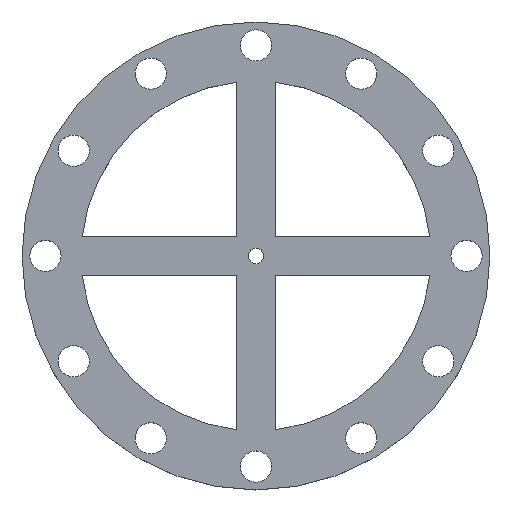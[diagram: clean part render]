
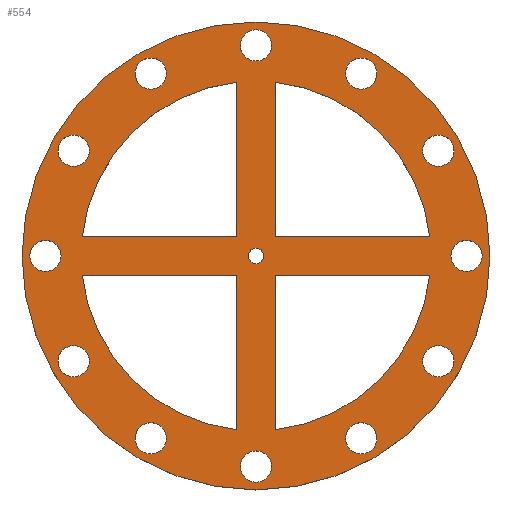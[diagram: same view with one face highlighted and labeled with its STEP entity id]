
A CAD part, top view. The second image highlights one B-rep face of the part: STEP entity #554.
In plain terms, the highlighted planar face has unit normal (0, 0, 1).
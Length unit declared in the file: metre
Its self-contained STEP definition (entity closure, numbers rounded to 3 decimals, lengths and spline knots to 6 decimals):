
#13=CIRCLE('',#572,0.022414);
#15=CIRCLE('',#575,0.022414);
#17=CIRCLE('',#579,0.022414);
#19=CIRCLE('',#583,0.022414);
#20=CIRCLE('',#586,0.03);
#22=CIRCLE('',#589,0.002);
#24=CIRCLE('',#592,0.002);
#26=CIRCLE('',#595,0.002);
#28=CIRCLE('',#598,0.002);
#30=CIRCLE('',#601,0.002);
#32=CIRCLE('',#604,0.002);
#34=CIRCLE('',#607,0.002);
#36=CIRCLE('',#610,0.002);
#38=CIRCLE('',#613,0.002);
#40=CIRCLE('',#616,0.002);
#42=CIRCLE('',#619,0.002);
#44=CIRCLE('',#622,0.002);
#46=CIRCLE('',#629,0.001);
#142=ORIENTED_EDGE('',*,*,#217,.F.);
#143=ORIENTED_EDGE('',*,*,#221,.F.);
#144=ORIENTED_EDGE('',*,*,#255,.F.);
#145=ORIENTED_EDGE('',*,*,#210,.F.);
#146=ORIENTED_EDGE('',*,*,#214,.F.);
#147=ORIENTED_EDGE('',*,*,#253,.T.);
#148=ORIENTED_EDGE('',*,*,#203,.F.);
#149=ORIENTED_EDGE('',*,*,#207,.T.);
#150=ORIENTED_EDGE('',*,*,#251,.T.);
#151=ORIENTED_EDGE('',*,*,#196,.F.);
#152=ORIENTED_EDGE('',*,*,#200,.F.);
#153=ORIENTED_EDGE('',*,*,#249,.T.);
#154=ORIENTED_EDGE('',*,*,#246,.F.);
#155=ORIENTED_EDGE('',*,*,#244,.F.);
#156=ORIENTED_EDGE('',*,*,#242,.F.);
#157=ORIENTED_EDGE('',*,*,#240,.F.);
#158=ORIENTED_EDGE('',*,*,#238,.F.);
#159=ORIENTED_EDGE('',*,*,#236,.F.);
#160=ORIENTED_EDGE('',*,*,#234,.F.);
#161=ORIENTED_EDGE('',*,*,#232,.F.);
#162=ORIENTED_EDGE('',*,*,#230,.F.);
#163=ORIENTED_EDGE('',*,*,#228,.F.);
#164=ORIENTED_EDGE('',*,*,#226,.F.);
#165=ORIENTED_EDGE('',*,*,#224,.F.);
#166=ORIENTED_EDGE('',*,*,#222,.T.);
#167=ORIENTED_EDGE('',*,*,#256,.F.);
#196=EDGE_CURVE('',#260,#261,#312,.T.);
#200=EDGE_CURVE('',#263,#260,#13,.T.);
#203=EDGE_CURVE('',#266,#267,#15,.T.);
#207=EDGE_CURVE('',#266,#269,#319,.T.);
#210=EDGE_CURVE('',#272,#273,#17,.T.);
#214=EDGE_CURVE('',#275,#272,#324,.T.);
#217=EDGE_CURVE('',#278,#279,#19,.T.);
#221=EDGE_CURVE('',#281,#278,#329,.T.);
#222=EDGE_CURVE('',#282,#282,#20,.T.);
#224=EDGE_CURVE('',#284,#284,#22,.T.);
#226=EDGE_CURVE('',#286,#286,#24,.T.);
#228=EDGE_CURVE('',#288,#288,#26,.T.);
#230=EDGE_CURVE('',#290,#290,#28,.T.);
#232=EDGE_CURVE('',#292,#292,#30,.T.);
#234=EDGE_CURVE('',#294,#294,#32,.T.);
#236=EDGE_CURVE('',#296,#296,#34,.T.);
#238=EDGE_CURVE('',#298,#298,#36,.T.);
#240=EDGE_CURVE('',#300,#300,#38,.T.);
#242=EDGE_CURVE('',#302,#302,#40,.T.);
#244=EDGE_CURVE('',#304,#304,#42,.T.);
#246=EDGE_CURVE('',#306,#306,#44,.T.);
#249=EDGE_CURVE('',#263,#261,#331,.T.);
#251=EDGE_CURVE('',#269,#267,#333,.T.);
#253=EDGE_CURVE('',#275,#273,#335,.T.);
#255=EDGE_CURVE('',#279,#281,#337,.T.);
#256=EDGE_CURVE('',#308,#308,#46,.T.);
#260=VERTEX_POINT('',#797);
#261=VERTEX_POINT('',#799);
#263=VERTEX_POINT('',#805);
#266=VERTEX_POINT('',#812);
#267=VERTEX_POINT('',#814);
#269=VERTEX_POINT('',#820);
#272=VERTEX_POINT('',#827);
#273=VERTEX_POINT('',#829);
#275=VERTEX_POINT('',#835);
#278=VERTEX_POINT('',#842);
#279=VERTEX_POINT('',#844);
#281=VERTEX_POINT('',#850);
#282=VERTEX_POINT('',#854);
#284=VERTEX_POINT('',#859);
#286=VERTEX_POINT('',#864);
#288=VERTEX_POINT('',#869);
#290=VERTEX_POINT('',#874);
#292=VERTEX_POINT('',#879);
#294=VERTEX_POINT('',#884);
#296=VERTEX_POINT('',#889);
#298=VERTEX_POINT('',#894);
#300=VERTEX_POINT('',#899);
#302=VERTEX_POINT('',#904);
#304=VERTEX_POINT('',#909);
#306=VERTEX_POINT('',#914);
#308=VERTEX_POINT('',#931);
#312=LINE('',#798,#340);
#319=LINE('',#821,#347);
#324=LINE('',#836,#352);
#329=LINE('',#851,#357);
#331=LINE('',#919,#359);
#333=LINE('',#922,#361);
#335=LINE('',#925,#363);
#337=LINE('',#928,#365);
#340=VECTOR('',#639,1.);
#347=VECTOR('',#660,1.);
#352=VECTOR('',#673,1.);
#357=VECTOR('',#686,1.);
#359=VECTOR('',#768,1.);
#361=VECTOR('',#772,1.);
#363=VECTOR('',#776,1.);
#365=VECTOR('',#780,1.);
#406=EDGE_LOOP('',(#142,#143,#144));
#407=EDGE_LOOP('',(#145,#146,#147));
#408=EDGE_LOOP('',(#148,#149,#150));
#409=EDGE_LOOP('',(#151,#152,#153));
#410=EDGE_LOOP('',(#154));
#411=EDGE_LOOP('',(#155));
#412=EDGE_LOOP('',(#156));
#413=EDGE_LOOP('',(#157));
#414=EDGE_LOOP('',(#158));
#415=EDGE_LOOP('',(#159));
#416=EDGE_LOOP('',(#160));
#417=EDGE_LOOP('',(#161));
#418=EDGE_LOOP('',(#162));
#419=EDGE_LOOP('',(#163));
#420=EDGE_LOOP('',(#164));
#421=EDGE_LOOP('',(#165));
#422=EDGE_LOOP('',(#166));
#423=EDGE_LOOP('',(#167));
#482=FACE_BOUND('',#406,.T.);
#483=FACE_BOUND('',#407,.T.);
#484=FACE_BOUND('',#408,.T.);
#485=FACE_BOUND('',#409,.T.);
#486=FACE_BOUND('',#410,.T.);
#487=FACE_BOUND('',#411,.T.);
#488=FACE_BOUND('',#412,.T.);
#489=FACE_BOUND('',#413,.T.);
#490=FACE_BOUND('',#414,.T.);
#491=FACE_BOUND('',#415,.T.);
#492=FACE_BOUND('',#416,.T.);
#493=FACE_BOUND('',#417,.T.);
#494=FACE_BOUND('',#418,.T.);
#495=FACE_BOUND('',#419,.T.);
#496=FACE_BOUND('',#420,.T.);
#497=FACE_BOUND('',#421,.T.);
#498=FACE_BOUND('',#422,.T.);
#499=FACE_BOUND('',#423,.T.);
#526=PLANE('',#631);
#554=ADVANCED_FACE('',(#482,#483,#484,#485,#486,#487,#488,#489,#490,#491,
#492,#493,#494,#495,#496,#497,#498,#499),#526,.T.);
#572=AXIS2_PLACEMENT_3D('',#806,#646,#647);
#575=AXIS2_PLACEMENT_3D('',#813,#653,#654);
#579=AXIS2_PLACEMENT_3D('',#828,#666,#667);
#583=AXIS2_PLACEMENT_3D('',#843,#679,#680);
#586=AXIS2_PLACEMENT_3D('',#853,#689,#690);
#589=AXIS2_PLACEMENT_3D('',#858,#695,#696);
#592=AXIS2_PLACEMENT_3D('',#863,#701,#702);
#595=AXIS2_PLACEMENT_3D('',#868,#707,#708);
#598=AXIS2_PLACEMENT_3D('',#873,#713,#714);
#601=AXIS2_PLACEMENT_3D('',#878,#719,#720);
#604=AXIS2_PLACEMENT_3D('',#883,#725,#726);
#607=AXIS2_PLACEMENT_3D('',#888,#731,#732);
#610=AXIS2_PLACEMENT_3D('',#893,#737,#738);
#613=AXIS2_PLACEMENT_3D('',#898,#743,#744);
#616=AXIS2_PLACEMENT_3D('',#903,#749,#750);
#619=AXIS2_PLACEMENT_3D('',#908,#755,#756);
#622=AXIS2_PLACEMENT_3D('',#913,#761,#762);
#629=AXIS2_PLACEMENT_3D('',#930,#783,#784);
#631=AXIS2_PLACEMENT_3D('',#934,#787,#788);
#639=DIRECTION('',(0.,-1.,0.));
#646=DIRECTION('',(0.,0.,1.));
#647=DIRECTION('',(1.,0.,0.));
#653=DIRECTION('',(0.,0.,1.));
#654=DIRECTION('',(1.,0.,0.));
#660=DIRECTION('',(0.,-1.,0.));
#666=DIRECTION('',(0.,0.,1.));
#667=DIRECTION('',(1.,0.,0.));
#673=DIRECTION('',(-1.,0.,0.));
#679=DIRECTION('',(0.,0.,1.));
#680=DIRECTION('',(1.,0.,0.));
#686=DIRECTION('',(0.,-1.,0.));
#689=DIRECTION('',(0.,0.,1.));
#690=DIRECTION('',(1.,0.,0.));
#695=DIRECTION('',(0.,0.,1.));
#696=DIRECTION('',(1.,0.,0.));
#701=DIRECTION('',(0.,0.,1.));
#702=DIRECTION('',(1.,0.,0.));
#707=DIRECTION('',(0.,0.,1.));
#708=DIRECTION('',(1.,0.,0.));
#713=DIRECTION('',(0.,0.,1.));
#714=DIRECTION('',(1.,0.,0.));
#719=DIRECTION('',(0.,0.,1.));
#720=DIRECTION('',(1.,0.,0.));
#725=DIRECTION('',(0.,0.,1.));
#726=DIRECTION('',(1.,0.,0.));
#731=DIRECTION('',(0.,0.,1.));
#732=DIRECTION('',(1.,0.,0.));
#737=DIRECTION('',(0.,0.,1.));
#738=DIRECTION('',(1.,0.,0.));
#743=DIRECTION('',(0.,0.,1.));
#744=DIRECTION('',(1.,0.,0.));
#749=DIRECTION('',(0.,0.,1.));
#750=DIRECTION('',(1.,0.,0.));
#755=DIRECTION('',(0.,0.,1.));
#756=DIRECTION('',(1.,0.,0.));
#761=DIRECTION('',(0.,0.,1.));
#762=DIRECTION('',(1.,0.,0.));
#768=DIRECTION('',(-1.,0.,0.));
#772=DIRECTION('',(-1.,0.,0.));
#776=DIRECTION('',(0.,-1.,0.));
#780=DIRECTION('',(-1.,0.,0.));
#783=DIRECTION('',(0.,0.,1.));
#784=DIRECTION('',(1.,0.,0.));
#787=DIRECTION('',(0.,0.,1.));
#788=DIRECTION('',(1.,0.,0.));
#797=CARTESIAN_POINT('',(0.0025,0.022275,0.006));
#798=CARTESIAN_POINT('',(0.0025,0.012387,0.006));
#799=CARTESIAN_POINT('',(0.0025,0.0025,0.006));
#805=CARTESIAN_POINT('',(0.022275,0.0025,0.006));
#806=CARTESIAN_POINT('',(0.,0.,0.006));
#812=CARTESIAN_POINT('',(-0.0025,0.022275,0.006));
#813=CARTESIAN_POINT('',(0.,0.,0.006));
#814=CARTESIAN_POINT('',(-0.022275,0.0025,0.006));
#820=CARTESIAN_POINT('',(-0.0025,0.0025,0.006));
#821=CARTESIAN_POINT('',(-0.0025,0.012387,0.006));
#827=CARTESIAN_POINT('',(-0.022275,-0.0025,0.006));
#828=CARTESIAN_POINT('',(0.,0.,0.006));
#829=CARTESIAN_POINT('',(-0.0025,-0.022275,0.006));
#835=CARTESIAN_POINT('',(-0.0025,-0.0025,0.006));
#836=CARTESIAN_POINT('',(-0.012387,-0.0025,0.006));
#842=CARTESIAN_POINT('',(0.0025,-0.022275,0.006));
#843=CARTESIAN_POINT('',(0.,0.,0.006));
#844=CARTESIAN_POINT('',(0.022275,-0.0025,0.006));
#850=CARTESIAN_POINT('',(0.0025,-0.0025,0.006));
#851=CARTESIAN_POINT('',(0.0025,-0.012387,0.006));
#853=CARTESIAN_POINT('',(0.,0.,0.006));
#854=CARTESIAN_POINT('',(0.03,0.,0.006));
#858=CARTESIAN_POINT('',(-0.027,0.,0.006));
#859=CARTESIAN_POINT('',(-0.025,0.,0.006));
#863=CARTESIAN_POINT('',(-0.023383,-0.0135,0.006));
#864=CARTESIAN_POINT('',(-0.021383,-0.0135,0.006));
#868=CARTESIAN_POINT('',(-0.0135,-0.023383,0.006));
#869=CARTESIAN_POINT('',(-0.0115,-0.023383,0.006));
#873=CARTESIAN_POINT('',(0.,-0.027,0.006));
#874=CARTESIAN_POINT('',(0.002,-0.027,0.006));
#878=CARTESIAN_POINT('',(0.0135,-0.023383,0.006));
#879=CARTESIAN_POINT('',(0.0155,-0.023383,0.006));
#883=CARTESIAN_POINT('',(0.023383,-0.0135,0.006));
#884=CARTESIAN_POINT('',(0.025383,-0.0135,0.006));
#888=CARTESIAN_POINT('',(0.027,0.,0.006));
#889=CARTESIAN_POINT('',(0.029,0.,0.006));
#893=CARTESIAN_POINT('',(0.023383,0.0135,0.006));
#894=CARTESIAN_POINT('',(0.025383,0.0135,0.006));
#898=CARTESIAN_POINT('',(0.0135,0.023383,0.006));
#899=CARTESIAN_POINT('',(0.0155,0.023383,0.006));
#903=CARTESIAN_POINT('',(0.,0.027,0.006));
#904=CARTESIAN_POINT('',(0.002,0.027,0.006));
#908=CARTESIAN_POINT('',(-0.0135,0.023383,0.006));
#909=CARTESIAN_POINT('',(-0.0115,0.023383,0.006));
#913=CARTESIAN_POINT('',(-0.023383,0.0135,0.006));
#914=CARTESIAN_POINT('',(-0.021383,0.0135,0.006));
#919=CARTESIAN_POINT('',(0.012387,0.0025,0.006));
#922=CARTESIAN_POINT('',(-0.012387,0.0025,0.006));
#925=CARTESIAN_POINT('',(-0.0025,-0.012387,0.006));
#928=CARTESIAN_POINT('',(0.012387,-0.0025,0.006));
#930=CARTESIAN_POINT('',(0.,0.,0.006));
#931=CARTESIAN_POINT('',(0.001,0.,0.006));
#934=CARTESIAN_POINT('',(0.,0.,0.006));
